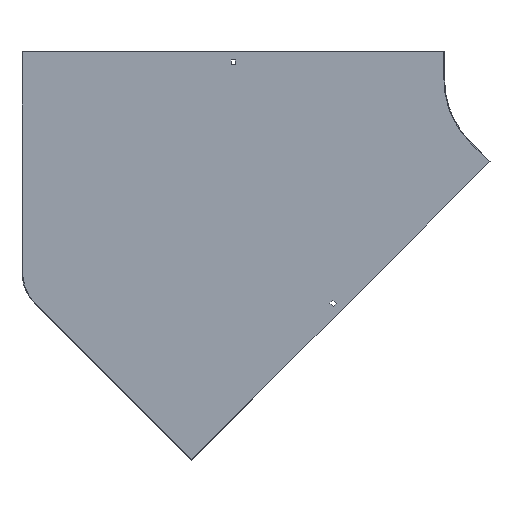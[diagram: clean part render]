
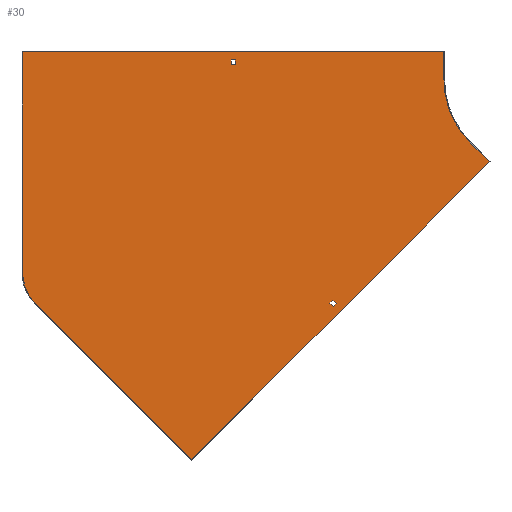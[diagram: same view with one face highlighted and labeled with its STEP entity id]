
A CAD part, front view. The second image highlights one B-rep face of the part: STEP entity #30.
In plain terms, the highlighted planar face has unit normal (0, -1, 0).
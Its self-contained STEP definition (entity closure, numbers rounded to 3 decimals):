
#13 = ORIENTED_EDGE ( 'NONE', *, *, #673, .T. ) ;
#16 = LINE ( 'NONE', #748, #48 ) ;
#23 = VERTEX_POINT ( 'NONE', #537 ) ;
#24 = ORIENTED_EDGE ( 'NONE', *, *, #317, .T. ) ;
#28 = DIRECTION ( 'NONE',  ( 0., 0., -1. ) ) ;
#30 = ADVANCED_FACE ( 'NONE', ( #526, #320, #789 ), #581, .T. ) ;
#33 = CARTESIAN_POINT ( 'NONE',  ( 0., -1., 28.5 ) ) ;
#38 = LINE ( 'NONE', #33, #92 ) ;
#41 = VERTEX_POINT ( 'NONE', #853 ) ;
#48 = VECTOR ( 'NONE', #670, 1000. ) ;
#55 = VERTEX_POINT ( 'NONE', #653 ) ;
#65 = DIRECTION ( 'NONE',  ( 0.707, 0., 0.707 ) ) ;
#67 = CARTESIAN_POINT ( 'NONE',  ( -428., -1., 28.5 ) ) ;
#71 = CARTESIAN_POINT ( 'NONE',  ( -422., -1., 21.5 ) ) ;
#74 = CARTESIAN_POINT ( 'NONE',  ( 20.153, -1., -20.153 ) ) ;
#87 = CARTESIAN_POINT ( 'NONE',  ( 15.203, -1., -15.203 ) ) ;
#88 = DIRECTION ( 'NONE',  ( 0., 0., -1. ) ) ;
#90 = EDGE_CURVE ( 'NONE', #386, #564, #784, .T. ) ;
#92 = VECTOR ( 'NONE', #773, 1000. ) ;
#94 = ORIENTED_EDGE ( 'NONE', *, *, #90, .F. ) ;
#101 = EDGE_CURVE ( 'NONE', #359, #483, #16, .T. ) ;
#111 = ORIENTED_EDGE ( 'NONE', *, *, #101, .T. ) ;
#113 = VERTEX_POINT ( 'NONE', #424 ) ;
#116 = DIRECTION ( 'NONE',  ( 1., 0., 0. ) ) ;
#128 = CARTESIAN_POINT ( 'NONE',  ( -725., -1., -274.416 ) ) ;
#151 = CARTESIAN_POINT ( 'NONE',  ( -302.642, -1., -302.642 ) ) ;
#158 = VERTEX_POINT ( 'NONE', #753 ) ;
#160 = ORIENTED_EDGE ( 'NONE', *, *, #360, .F. ) ;
#163 = VECTOR ( 'NONE', #65, 1000. ) ;
#174 = EDGE_CURVE ( 'NONE', #113, #23, #406, .T. ) ;
#179 = VECTOR ( 'NONE', #842, 1000. ) ;
#182 = VERTEX_POINT ( 'NONE', #285 ) ;
#185 = CARTESIAN_POINT ( 'NONE',  ( -59.397, -1., -115.966 ) ) ;
#187 = EDGE_CURVE ( 'NONE', #791, #275, #211, .T. ) ;
#188 = ORIENTED_EDGE ( 'NONE', *, *, #187, .F. ) ;
#194 = EDGE_CURVE ( 'NONE', #182, #791, #818, .T. ) ;
#198 = DIRECTION ( 'NONE',  ( 0., 0., -1. ) ) ;
#200 = EDGE_CURVE ( 'NONE', #449, #359, #621, .T. ) ;
#211 = LINE ( 'NONE', #151, #820 ) ;
#213 = VERTEX_POINT ( 'NONE', #276 ) ;
#219 = DIRECTION ( 'NONE',  ( -1., 0., 0. ) ) ;
#224 = CARTESIAN_POINT ( 'NONE',  ( -125., -1., 40. ) ) ;
#228 = AXIS2_PLACEMENT_3D ( 'NONE', #736, #554, #346 ) ;
#242 = VECTOR ( 'NONE', #116, 1000. ) ;
#252 = DIRECTION ( 'NONE',  ( 0., -1., 0. ) ) ;
#260 = ORIENTED_EDGE ( 'NONE', *, *, #194, .F. ) ;
#265 = ORIENTED_EDGE ( 'NONE', *, *, #508, .F. ) ;
#270 = VECTOR ( 'NONE', #694, 1000. ) ;
#275 = VERTEX_POINT ( 'NONE', #637 ) ;
#276 = CARTESIAN_POINT ( 'NONE',  ( -278.247, -1., -318.552 ) ) ;
#285 = CARTESIAN_POINT ( 'NONE',  ( -283.196, -1., -313.602 ) ) ;
#294 = CARTESIAN_POINT ( 'NONE',  ( -88.388, -1., -88.388 ) ) ;
#311 = VERTEX_POINT ( 'NONE', #561 ) ;
#317 = EDGE_CURVE ( 'NONE', #483, #158, #38, .T. ) ;
#318 = ORIENTED_EDGE ( 'NONE', *, *, #632, .F. ) ;
#319 = LINE ( 'NONE', #332, #628 ) ;
#320 = FACE_OUTER_BOUND ( 'NONE', #516, .T. ) ;
#326 = ORIENTED_EDGE ( 'NONE', *, *, #200, .T. ) ;
#328 = DIRECTION ( 'NONE',  ( 0., 0., 1. ) ) ;
#332 = CARTESIAN_POINT ( 'NONE',  ( -484.368, -1., -540.937 ) ) ;
#340 = EDGE_CURVE ( 'NONE', #23, #41, #365, .T. ) ;
#341 = ORIENTED_EDGE ( 'NONE', *, *, #627, .F. ) ;
#346 = DIRECTION ( 'NONE',  ( 0., 0., -1. ) ) ;
#357 = CARTESIAN_POINT ( 'NONE',  ( -422., -1., 0. ) ) ;
#359 = VERTEX_POINT ( 'NONE', #829 ) ;
#360 = EDGE_CURVE ( 'NONE', #213, #182, #498, .T. ) ;
#364 = AXIS2_PLACEMENT_3D ( 'NONE', #847, #252, #198 ) ;
#365 = LINE ( 'NONE', #294, #614 ) ;
#375 = EDGE_CURVE ( 'NONE', #564, #400, #836, .T. ) ;
#384 = LINE ( 'NONE', #185, #179 ) ;
#386 = VERTEX_POINT ( 'NONE', #708 ) ;
#389 = EDGE_CURVE ( 'NONE', #55, #311, #319, .T. ) ;
#393 = ORIENTED_EDGE ( 'NONE', *, *, #340, .F. ) ;
#400 = VERTEX_POINT ( 'NONE', #648 ) ;
#406 = CIRCLE ( 'NONE', #228, 125. ) ;
#412 = DIRECTION ( 'NONE',  ( 0.707, 0., -0.707 ) ) ;
#416 = ORIENTED_EDGE ( 'NONE', *, *, #389, .F. ) ;
#424 = CARTESIAN_POINT ( 'NONE',  ( -125., -1., 0. ) ) ;
#449 = VERTEX_POINT ( 'NONE', #71 ) ;
#455 = VECTOR ( 'NONE', #813, 1000. ) ;
#468 = ORIENTED_EDGE ( 'NONE', *, *, #375, .F. ) ;
#483 = VERTEX_POINT ( 'NONE', #67 ) ;
#498 = LINE ( 'NONE', #502, #270 ) ;
#502 = CARTESIAN_POINT ( 'NONE',  ( -298.399, -1., -298.399 ) ) ;
#508 = EDGE_CURVE ( 'NONE', #275, #213, #603, .T. ) ;
#516 = EDGE_LOOP ( 'NONE', ( #468, #94, #318, #416, #693, #393, #772, #341 ) ) ;
#525 = CIRCLE ( 'NONE', #771, 62.5 ) ;
#526 = FACE_BOUND ( 'NONE', #560, .T. ) ;
#537 = CARTESIAN_POINT ( 'NONE',  ( -88.388, -1., -88.388 ) ) ;
#545 = DIRECTION ( 'NONE',  ( -0.707, 0., -0.707 ) ) ;
#546 = CARTESIAN_POINT ( 'NONE',  ( -662.5, -1., -274.416 ) ) ;
#554 = DIRECTION ( 'NONE',  ( 0., -1., 0. ) ) ;
#555 = LINE ( 'NONE', #224, #758 ) ;
#559 = VECTOR ( 'NONE', #219, 1000. ) ;
#560 = EDGE_LOOP ( 'NONE', ( #160, #265, #188, #260 ) ) ;
#561 = CARTESIAN_POINT ( 'NONE',  ( -706.694, -1., -318.611 ) ) ;
#564 = VERTEX_POINT ( 'NONE', #727 ) ;
#581 = PLANE ( 'NONE',  #364 ) ;
#600 = VECTOR ( 'NONE', #545, 1000. ) ;
#603 = LINE ( 'NONE', #74, #163 ) ;
#614 = VECTOR ( 'NONE', #824, 1000. ) ;
#621 = LINE ( 'NONE', #811, #559 ) ;
#627 = EDGE_CURVE ( 'NONE', #400, #113, #555, .T. ) ;
#628 = VECTOR ( 'NONE', #659, 1000. ) ;
#631 = CARTESIAN_POINT ( 'NONE',  ( -287.439, -1., -317.844 ) ) ;
#632 = EDGE_CURVE ( 'NONE', #311, #386, #525, .T. ) ;
#637 = CARTESIAN_POINT ( 'NONE',  ( -282.489, -1., -322.794 ) ) ;
#648 = CARTESIAN_POINT ( 'NONE',  ( -125., -1., 40. ) ) ;
#653 = CARTESIAN_POINT ( 'NONE',  ( -484.368, -1., -540.937 ) ) ;
#659 = DIRECTION ( 'NONE',  ( -0.707, 0., 0.707 ) ) ;
#670 = DIRECTION ( 'NONE',  ( 0., 0., 1. ) ) ;
#673 = EDGE_CURVE ( 'NONE', #158, #449, #749, .T. ) ;
#681 = EDGE_LOOP ( 'NONE', ( #24, #13, #326, #111 ) ) ;
#693 = ORIENTED_EDGE ( 'NONE', *, *, #827, .F. ) ;
#694 = DIRECTION ( 'NONE',  ( -0.707, 0., 0.707 ) ) ;
#703 = CARTESIAN_POINT ( 'NONE',  ( -726., -1., 40. ) ) ;
#708 = CARTESIAN_POINT ( 'NONE',  ( -725., -1., -274.416 ) ) ;
#727 = CARTESIAN_POINT ( 'NONE',  ( -725., -1., 40. ) ) ;
#736 = CARTESIAN_POINT ( 'NONE',  ( 0., -1., 0. ) ) ;
#748 = CARTESIAN_POINT ( 'NONE',  ( -428., -1., 0. ) ) ;
#749 = LINE ( 'NONE', #357, #455 ) ;
#750 = VECTOR ( 'NONE', #328, 1000. ) ;
#753 = CARTESIAN_POINT ( 'NONE',  ( -422., -1., 28.5 ) ) ;
#758 = VECTOR ( 'NONE', #88, 1000. ) ;
#771 = AXIS2_PLACEMENT_3D ( 'NONE', #546, #812, #28 ) ;
#772 = ORIENTED_EDGE ( 'NONE', *, *, #174, .F. ) ;
#773 = DIRECTION ( 'NONE',  ( 1., 0., 0. ) ) ;
#784 = LINE ( 'NONE', #128, #750 ) ;
#789 = FACE_BOUND ( 'NONE', #681, .T. ) ;
#791 = VERTEX_POINT ( 'NONE', #631 ) ;
#811 = CARTESIAN_POINT ( 'NONE',  ( 0., -1., 21.5 ) ) ;
#812 = DIRECTION ( 'NONE',  ( 0., 1., 0. ) ) ;
#813 = DIRECTION ( 'NONE',  ( 0., 0., -1. ) ) ;
#818 = LINE ( 'NONE', #87, #600 ) ;
#820 = VECTOR ( 'NONE', #412, 1000. ) ;
#824 = DIRECTION ( 'NONE',  ( 0.707, 0., -0.707 ) ) ;
#827 = EDGE_CURVE ( 'NONE', #41, #55, #384, .T. ) ;
#829 = CARTESIAN_POINT ( 'NONE',  ( -428., -1., 21.5 ) ) ;
#836 = LINE ( 'NONE', #703, #242 ) ;
#842 = DIRECTION ( 'NONE',  ( -0.707, 0., -0.707 ) ) ;
#847 = CARTESIAN_POINT ( 'NONE',  ( 0., -1., 0. ) ) ;
#853 = CARTESIAN_POINT ( 'NONE',  ( -60.104, -1., -116.673 ) ) ;
